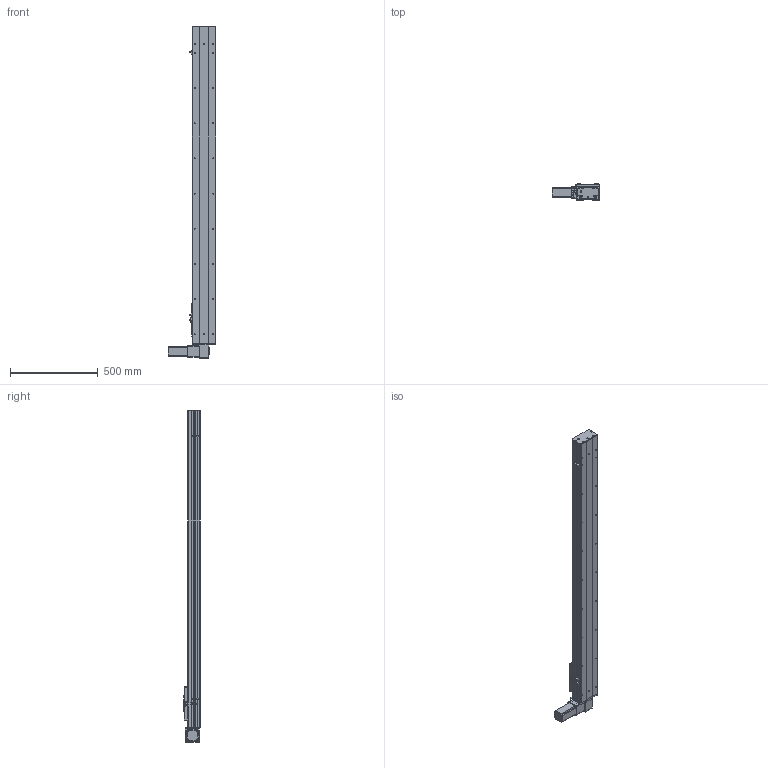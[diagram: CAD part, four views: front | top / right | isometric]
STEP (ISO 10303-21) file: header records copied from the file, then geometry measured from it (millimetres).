
FILE_DESCRIPTION (( 'STEP AP203' ), '1' );
FILE_NAME ('Y135CB-D90-S1500-BD-P400W.STEP', '2020-02-19T03:44:25', ( '微软用户' ), ( '微软中国' ), 'SwSTEP 2.0', 'SolidWorks 2017', '' );
FILE_SCHEMA (( 'CONFIG_CONTROL_DESIGN' ));
Length unit declared in the file: millimetre
Products named in the file (16): 0B-薊粣ん眊; 5CB --掛极耜裔啣-; Y135CB-D90-S1500-BD-P400W; C-詩湍揤踡え-陔; 135CB--詩湍-CE; Y100-135俋离換覜ん--; Y135CB-耜裔; Y135C-陔俋离換覜結え-; 135CB---遴掛极.-; 35CB---喘謫眊楊擘啣; 5C--俋欶; 0B-埴倛裔啣; C-雄赽釱--; 0B-源倛裔啣; Y10B--々湍喘謫眊--666; san松下电机400不带刹车----
Assembly tree (19 placements, depth 2):
  Y135CB-D90-S1500-BD-P400W
    Y135CB-耜裔
    135CB---遴掛极.-
    35CB---喘謫眊楊擘啣
    0B-埴倛裔啣
    0B-源倛裔啣
    san松下电机400不带刹车----
    5CB --掛极耜裔啣-  x2
    C-詩湍揤踡え-陔  x2
    135CB--詩湍-CE
    Y100-135俋离換覜ん--  x3
    Y135C-陔俋离換覜結え-
    5C--俋欶
    C-雄赽釱--
    Y10B--々湍喘謫眊--666
    0B-薊粣ん眊
Bounding box: 272 x 91 x 1888 mm (x, y, z)
Volume: 5685134.1 mm3; surface area: 2193810.4 mm2
Topology: 19 solids, 19 shells, 867 faces, 2320 edges, 1536 vertices
Faces by surface type: cylinder 436, plane 415, cone 16
Entity records: 26612 total; most frequent: DIRECTION 4436, CARTESIAN_POINT 4379, ORIENTED_EDGE 4116, EDGE_CURVE 2058, AXIS2_PLACEMENT_3D 1629, VERTEX_POINT 1364, LINE 1178, VECTOR 1178
